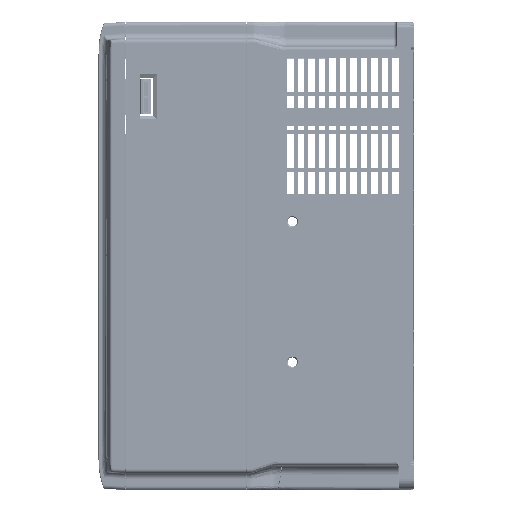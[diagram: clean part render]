
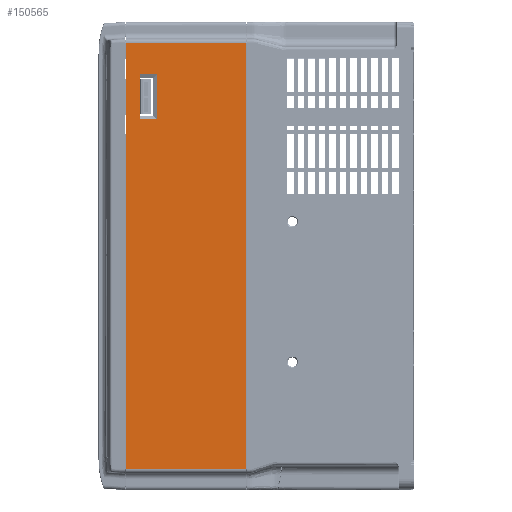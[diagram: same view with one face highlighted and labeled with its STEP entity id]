
A CAD part, left-side view. The second image highlights one B-rep face of the part: STEP entity #150565.
In plain terms, the highlighted planar face has unit normal (-1, 0, 0).
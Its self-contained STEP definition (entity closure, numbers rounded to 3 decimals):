
#111976=DIRECTION('',(0.,0.,1.));
#111977=VECTOR('',#111976,228.);
#111978=CARTESIAN_POINT('',(-140.,89.7,11.));
#111979=LINE('',#111978,#111977);
#112348=DIRECTION('',(0.,-1.,0.));
#112349=VECTOR('',#112348,63.8);
#112350=CARTESIAN_POINT('',(-140.,153.5,11.));
#112351=LINE('',#112350,#112349);
#112362=DIRECTION('',(0.,0.,1.));
#112363=VECTOR('',#112362,228.);
#112364=CARTESIAN_POINT('',(-140.,153.5,11.));
#112365=LINE('',#112364,#112363);
#117197=DIRECTION('',(0.,1.,0.));
#117198=VECTOR('',#117197,63.8);
#117199=CARTESIAN_POINT('',(-140.,89.7,239.));
#117200=LINE('',#117199,#117198);
#118139=DIRECTION('',(0.,0.,-1.));
#118140=VECTOR('',#118139,24.);
#118141=CARTESIAN_POINT('',(-140.,137.2,222.));
#118142=LINE('',#118141,#118140);
#118160=DIRECTION('',(0.,1.,0.));
#118161=VECTOR('',#118160,9.);
#118162=CARTESIAN_POINT('',(-140.,137.2,198.));
#118163=LINE('',#118162,#118161);
#118188=DIRECTION('',(0.,0.,1.));
#118189=VECTOR('',#118188,24.);
#118190=CARTESIAN_POINT('',(-140.,146.2,198.));
#118191=LINE('',#118190,#118189);
#118492=DIRECTION('',(0.,-1.,0.));
#118493=VECTOR('',#118492,9.);
#118494=CARTESIAN_POINT('',(-140.,146.2,222.));
#118495=LINE('',#118494,#118493);
#131851=CARTESIAN_POINT('',(-140.,89.7,11.));
#131852=VERTEX_POINT('',#131851);
#131853=CARTESIAN_POINT('',(-140.,89.7,239.));
#131854=VERTEX_POINT('',#131853);
#131937=CARTESIAN_POINT('',(-140.,153.5,11.));
#131938=VERTEX_POINT('',#131937);
#131939=CARTESIAN_POINT('',(-140.,153.5,239.));
#131940=VERTEX_POINT('',#131939);
#131941=CARTESIAN_POINT('',(-140.,146.2,222.));
#131942=CARTESIAN_POINT('',(-140.,137.2,222.));
#131943=VERTEX_POINT('',#131941);
#131944=VERTEX_POINT('',#131942);
#131945=CARTESIAN_POINT('',(-140.,146.2,198.));
#131946=VERTEX_POINT('',#131945);
#131947=CARTESIAN_POINT('',(-140.,137.2,198.));
#131948=VERTEX_POINT('',#131947);
#150542=CARTESIAN_POINT('',(-140.,119.5,0.));
#150543=DIRECTION('',(-1.,0.,0.));
#150544=DIRECTION('',(0.,0.,1.));
#150545=AXIS2_PLACEMENT_3D('',#150542,#150543,#150544);
#150546=PLANE('',#150545);
#150547=ORIENTED_EDGE('',*,*,#150533,.F.);
#150549=ORIENTED_EDGE('',*,*,#150548,.T.);
#150551=ORIENTED_EDGE('',*,*,#150550,.F.);
#150552=ORIENTED_EDGE('',*,*,#150382,.F.);
#150553=EDGE_LOOP('',(#150547,#150549,#150551,#150552));
#150554=FACE_OUTER_BOUND('',#150553,.F.);
#150556=ORIENTED_EDGE('',*,*,#150555,.F.);
#150558=ORIENTED_EDGE('',*,*,#150557,.F.);
#150560=ORIENTED_EDGE('',*,*,#150559,.F.);
#150562=ORIENTED_EDGE('',*,*,#150561,.F.);
#150563=EDGE_LOOP('',(#150556,#150558,#150560,#150562));
#150564=FACE_BOUND('',#150563,.F.);
#150382=EDGE_CURVE('',#131852,#131854,#111979,.T.);
#150533=EDGE_CURVE('',#131938,#131852,#112351,.T.);
#150548=EDGE_CURVE('',#131938,#131940,#112365,.T.);
#150550=EDGE_CURVE('',#131854,#131940,#117200,.T.);
#150555=EDGE_CURVE('',#131943,#131944,#118495,.T.);
#150557=EDGE_CURVE('',#131946,#131943,#118191,.T.);
#150559=EDGE_CURVE('',#131948,#131946,#118163,.T.);
#150561=EDGE_CURVE('',#131944,#131948,#118142,.T.);
#150565=ADVANCED_FACE('',(#150554,#150564),#150546,.T.);
